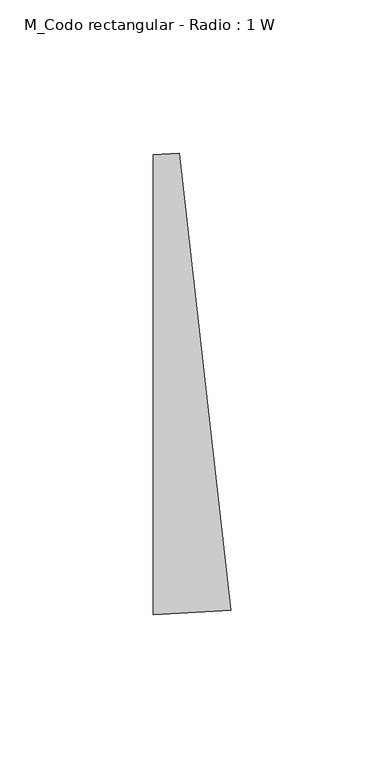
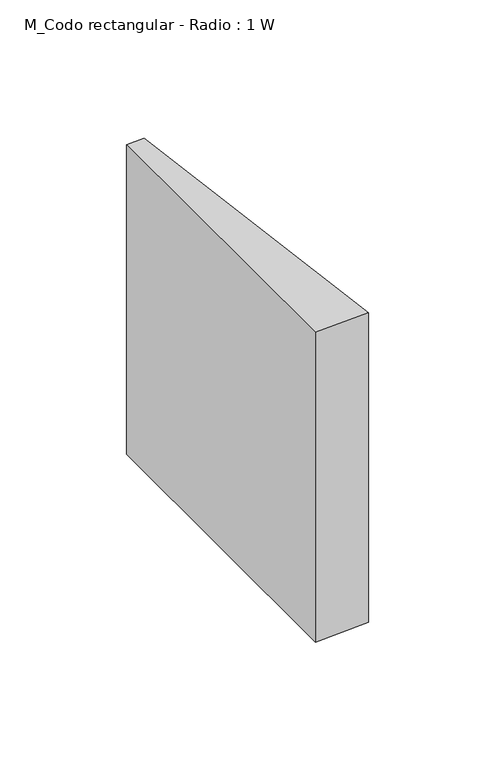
"""IFC4 building model written with IfcOpenShell, lengths in millimetres: duct fitting geometry, M_Codo rectangular - Radio : 1 W."""

from ifc_helpers import new_model, si_unit, point, frame, frame_2d, origin, place, context, project, spatial, polyline, circle_curve, trimmed, segment, composite_curve, outline, extrude, source, transform, mapped, element, save


def m_codo_rectangular_radio_1_w_c9e8b66a(model_context):
    return source(origin(), model_context, "Body", "SweptSolid", [
        extrude(outline(composite_curve([segment(trimmed(circle_curve(frame_2d((-8.4218101, 150.0)), 225.0), [point((16.7642261, -73.5859199))], [point((-8.4218101, -75.0))], False, "CARTESIAN"), True, "CONTINUOUS"), segment(polyline([(-8.4218101, -75.0), (-8.4218101, 75.0)]), True, "CONTINUOUS"), segment(trimmed(circle_curve(frame_2d((-8.4218101, 150.0)), 75.0), [point((-8.4218101, 75.0))], [point((-0.0264647, 75.47136))], True, "CARTESIAN"), True, "CONTINUOUS"), segment(polyline([(-0.0264647, 75.47136), (16.7642261, -73.5859199)]), True, "CONTINUOUS")], self_intersect=False)), frame((0.0, 0.0, -75.0), z_axis=(0.0, 0.0, 1.0), x_axis=(1.0, 0.0, 0.0)), (0.0, 0.0, 1.0), 150.0),
    ])


if __name__ == "__main__":
    model = new_model("IFC4")
    model_context = context("Model", 3, world=origin())
    ifc_project = project(units=[si_unit("LENGTHUNIT", "METRE", prefix="MILLI")], contexts=[model_context])
    site = spatial("IfcSite", under=ifc_project)
    building = spatial("IfcBuilding", under=site)
    placement = place(None, origin())
    m_codo_rectangular_radio_1_w_shape = m_codo_rectangular_radio_1_w_c9e8b66a(model_context)
    element("IfcDuctFitting", 1, ObjectType="M_Codo rectangular - Radio : 1 W", at=placement, inside=building, context=model_context, shape_type="MappedRepresentation", body=[
        mapped(m_codo_rectangular_radio_1_w_shape, transform((0.0, 0.0, 0.0), x_axis=(1.0, 0.0, 0.0), y_axis=(0.0, 1.0, 0.0), z_axis=(0.0, 0.0, 1.0))),
    ])
    save(model, "model.ifc")
